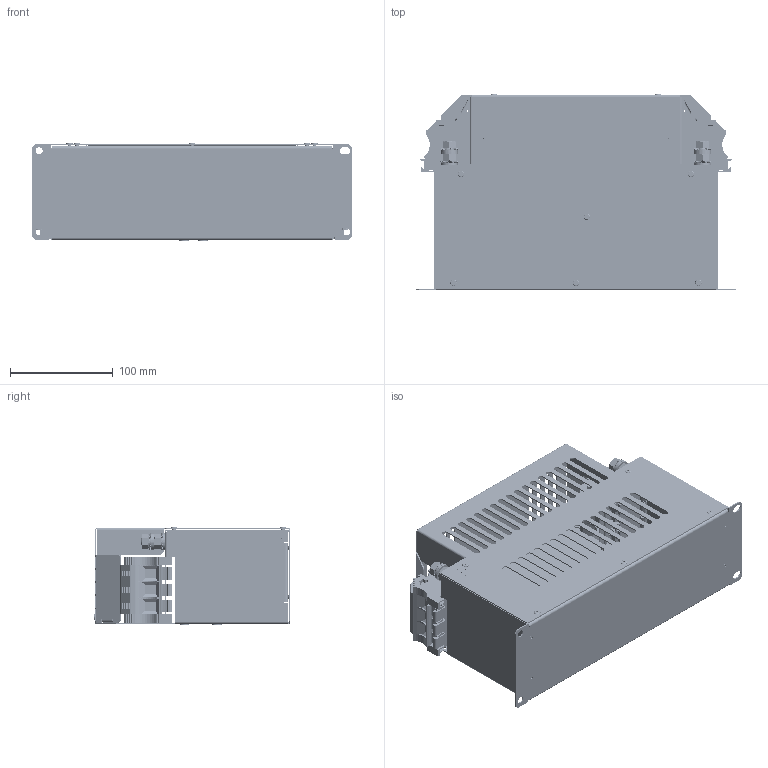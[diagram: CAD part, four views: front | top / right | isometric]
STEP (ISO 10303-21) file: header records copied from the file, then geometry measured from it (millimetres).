
FILE_DESCRIPTION (( 'STEP AP214' ), '1' );
FILE_NAME ('KMF350A-KMF3100.STEP', '2016-04-26T08:42:57', ( '' ), ( '' ), 'SwSTEP 2.0', 'SolidWorks 2014', '' );
FILE_SCHEMA (( 'AUTOMOTIVE_DESIGN' ));
Length unit declared in the file: millimetre
Products named in the file (20): M3 EXT WSH_M4; ISO 7045 - M3 x 6 - Z --- 6N_ISO 7045 - M3 x 6 - Z --- 6N; NUT83_NUT81; WSH165; KMF350A-KMF3100; WSH134; TER729 (1); TER727 (1); BOX673_bent tabs; FIX139; FIX119; PEM SO-M4-12 ZI_PEM SO-M4-12 ZI; PEM SSS-4mm-12 ZI_PEM SSS-4mm-12 ZI; PEM FH-M8-25 ZI_PEM FH-M8-25 ZI; PEM HFH-M6-12 ZI_PEM HFH-M6-12 ZI; BOX673LID_60 degree tabs with return; BOX673; PEM SOS-M4-12 ---N_PEM SOS-M4-12 ---N; PEM SSC-4mm-12_PEM SSC-4mm-12; SCR100
Assembly tree (69 placements, depth 3):
  KMF350A-KMF3100
    NUT83_NUT81  x4
    SCR100  x2
      ISO 7045 - M3 x 6 - Z --- 6N_ISO 7045 - M3 x 6 - Z --- 6N
      M3 EXT WSH_M4
    PEM SSC-4mm-12_PEM SSC-4mm-12  x6
    PEM SOS-M4-12 ---N_PEM SOS-M4-12 ---N  x2
    BOX673_bent tabs
      BOX673
      BOX673LID_60 degree tabs with return
      PEM HFH-M6-12 ZI_PEM HFH-M6-12 ZI  x2
      PEM FH-M8-25 ZI_PEM FH-M8-25 ZI  x2
      PEM SSS-4mm-12 ZI_PEM SSS-4mm-12 ZI  x6
      PEM SO-M4-12 ZI_PEM SO-M4-12 ZI  x2
      FIX119  x4
      FIX139  x7
    TER727 (1)  x6
    TER729 (1)  x4
    WSH134  x6
    WSH165  x4
    FIX139  x7
Bounding box: 312 x 191 x 95.77 mm (x, y, z)
Volume: 456887.7 mm3; surface area: 477908.1 mm2
Topology: 104 solids, 104 shells, 6653 faces, 18152 edges, 11802 vertices
Faces by surface type: plane 3629, cylinder 2142, cone 770, torus 108, sphere 4
Entity records: 72525 total; most frequent: CARTESIAN_POINT 12433, DIRECTION 11719, ORIENTED_EDGE 11388, EDGE_CURVE 5694, AXIS2_PLACEMENT_3D 4057, VERTEX_POINT 3667, VECTOR 3605, LINE 3605
